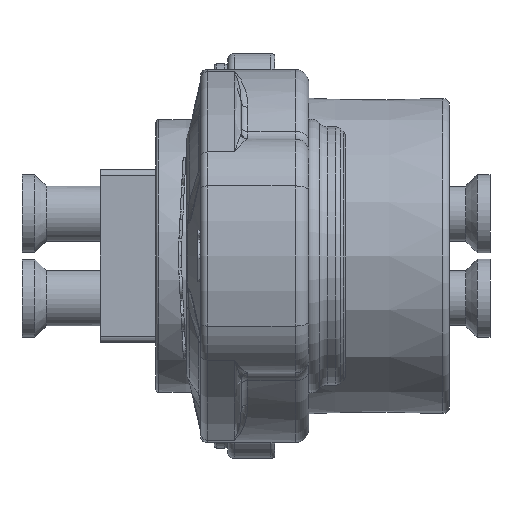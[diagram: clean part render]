
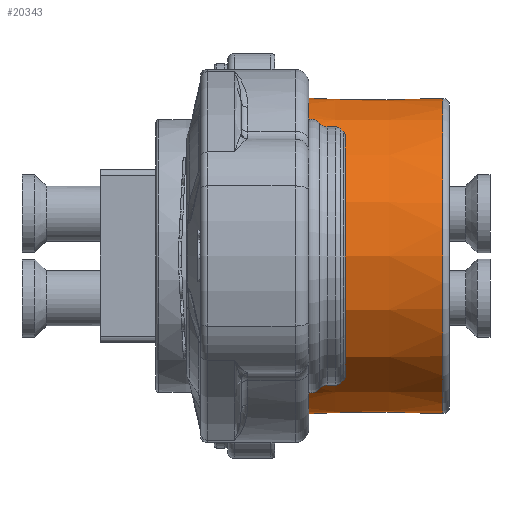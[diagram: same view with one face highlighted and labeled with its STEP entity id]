
A CAD part, front view. The second image highlights one B-rep face of the part: STEP entity #20343.
In plain terms, the highlighted conical face has half-angle 0.5 degrees and reference radius 11.65 mm.
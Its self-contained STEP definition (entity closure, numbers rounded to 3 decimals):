
#720 = ORIENTED_EDGE ( 'NONE', *, *, #23386, .T. ) ;
#1283 = AXIS2_PLACEMENT_3D ( 'NONE', #39389, #26024, #5034 ) ;
#1452 = DIRECTION ( 'NONE',  ( 0., 0., 1. ) ) ;
#2007 = VERTEX_POINT ( 'NONE', #29016 ) ;
#3484 = EDGE_LOOP ( 'NONE', ( #11074, #20559, #17903, #720 ) ) ;
#3702 = B_SPLINE_CURVE_WITH_KNOTS ( 'NONE', 3,
 ( #41725, #17539, #10819, #31599, #30925, #38254, #21410 ),
 .UNSPECIFIED., .F., .F.,
 ( 4, 3, 4 ),
 ( 0., 0.006, 0.012 ),
 .UNSPECIFIED. ) ;
#4086 = EDGE_CURVE ( 'NONE', #2007, #7967, #3702, .T. ) ;
#5034 = DIRECTION ( 'NONE',  ( 0., 0., -1. ) ) ;
#7920 = CARTESIAN_POINT ( 'NONE',  ( -2.33, 8.741, 7.733 ) ) ;
#7967 = VERTEX_POINT ( 'NONE', #29918 ) ;
#8156 = CARTESIAN_POINT ( 'NONE',  ( -10.269, 8.776, 7.797 ) ) ;
#8329 = DIRECTION ( 'NONE',  ( 1., 0., 0. ) ) ;
#8550 = EDGE_CURVE ( 'NONE', #30880, #2007, #13228, .T. ) ;
#9872 = CARTESIAN_POINT ( 'NONE',  ( -12.404, 8.786, 7.814 ) ) ;
#10819 = CARTESIAN_POINT ( 'NONE',  ( -8.735, 8.77, -7.785 ) ) ;
#11074 = ORIENTED_EDGE ( 'NONE', *, *, #12597, .T. ) ;
#12189 = CONICAL_SURFACE ( 'NONE', #12925, 11.65, 0.009 ) ;
#12597 = EDGE_CURVE ( 'NONE', #33466, #30880, #31144, .T. ) ;
#12925 = AXIS2_PLACEMENT_3D ( 'NONE', #17262, #13570, #21987 ) ;
#13228 = CIRCLE ( 'NONE', #41183, 11.758 ) ;
#13570 = DIRECTION ( 'NONE',  ( -1., 0., 0. ) ) ;
#17262 = CARTESIAN_POINT ( 'NONE',  ( 0., 0., 0. ) ) ;
#17539 = CARTESIAN_POINT ( 'NONE',  ( -10.57, 8.778, -7.8 ) ) ;
#17903 = ORIENTED_EDGE ( 'NONE', *, *, #4086, .T. ) ;
#18960 = CIRCLE ( 'NONE', #1283, 11.654 ) ;
#20343 = ADVANCED_FACE ( 'NONE', ( #39510 ), #12189, .T. ) ;
#20559 = ORIENTED_EDGE ( 'NONE', *, *, #8550, .T. ) ;
#21097 = CARTESIAN_POINT ( 'NONE',  ( -0.496, 8.733, 7.718 ) ) ;
#21410 = CARTESIAN_POINT ( 'NONE',  ( -0.496, 8.733, -7.718 ) ) ;
#21987 = DIRECTION ( 'NONE',  ( 0., 0., 1. ) ) ;
#23386 = EDGE_CURVE ( 'NONE', #7967, #33466, #18960, .T. ) ;
#25238 = CARTESIAN_POINT ( 'NONE',  ( -6., 8.757, 7.762 ) ) ;
#26024 = DIRECTION ( 'NONE',  ( -1., 0., 0. ) ) ;
#26891 = CARTESIAN_POINT ( 'NONE',  ( -0.496, 8.733, 7.718 ) ) ;
#29016 = CARTESIAN_POINT ( 'NONE',  ( -12.404, 8.786, -7.814 ) ) ;
#29404 = CARTESIAN_POINT ( 'NONE',  ( -4.165, 8.749, 7.747 ) ) ;
#29812 = CARTESIAN_POINT ( 'NONE',  ( -12.404, 0., 0. ) ) ;
#29918 = CARTESIAN_POINT ( 'NONE',  ( -0.496, 8.733, -7.718 ) ) ;
#30880 = VERTEX_POINT ( 'NONE', #9872 ) ;
#30925 = CARTESIAN_POINT ( 'NONE',  ( -4.765, 8.752, -7.752 ) ) ;
#31144 = B_SPLINE_CURVE_WITH_KNOTS ( 'NONE', 3,
 ( #21097, #7920, #29404, #25238, #35852, #8156, #39756 ),
 .UNSPECIFIED., .F., .F.,
 ( 4, 3, 4 ),
 ( 0., 0.006, 0.012 ),
 .UNSPECIFIED. ) ;
#31599 = CARTESIAN_POINT ( 'NONE',  ( -6.9, 8.761, -7.77 ) ) ;
#33466 = VERTEX_POINT ( 'NONE', #26891 ) ;
#35852 = CARTESIAN_POINT ( 'NONE',  ( -8.135, 8.767, 7.78 ) ) ;
#38254 = CARTESIAN_POINT ( 'NONE',  ( -2.631, 8.742, -7.735 ) ) ;
#39389 = CARTESIAN_POINT ( 'NONE',  ( -0.496, 0., 0. ) ) ;
#39510 = FACE_OUTER_BOUND ( 'NONE', #3484, .T. ) ;
#39756 = CARTESIAN_POINT ( 'NONE',  ( -12.404, 8.786, 7.814 ) ) ;
#41183 = AXIS2_PLACEMENT_3D ( 'NONE', #29812, #8329, #1452 ) ;
#41725 = CARTESIAN_POINT ( 'NONE',  ( -12.404, 8.786, -7.814 ) ) ;
